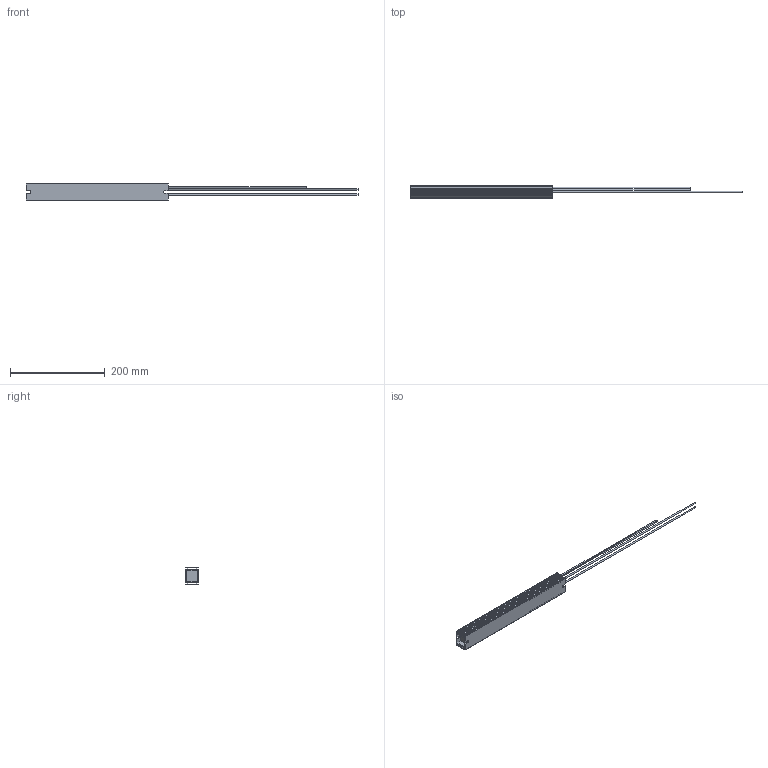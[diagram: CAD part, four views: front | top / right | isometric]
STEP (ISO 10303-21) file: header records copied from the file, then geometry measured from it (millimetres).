
FILE_DESCRIPTION(/* description */ (''),/* implementation_level */ '2;1');
FILE_NAME(/* name */ 'C:\_Vault\Dati\CATALOGO\RFZC\3D\RFZTC300.stp',/* time_stamp */ '2014-03-27T17:48:12+01:00',/* author */ ('stefano'),/* organization */ (''),/* preprocessor_version */ 'ST-DEVELOPER v15.2',/* originating_system */ 'Autodesk Inventor 2014',/* authorisation */ '');
FILE_SCHEMA (('AUTOMOTIVE_DESIGN { 1 0 10303 214 3 1 1 }'));
Length unit declared in the file: millimetre
Products named in the file (1): RFZTC300
Bounding box: 700 x 27 x 36 mm (x, y, z)
Volume: 253191.9 mm3; surface area: 76770.2 mm2
Topology: 1 solids, 1 shells, 98 faces, 268 edges, 176 vertices
Faces by surface type: plane 72, cylinder 26
Full cylindrical faces by diameter (mm): 2 x2, 3 x2
Entity records: 3215 total; most frequent: CARTESIAN_POINT 539, ORIENTED_EDGE 528, DIRECTION 522, EDGE_CURVE 264, LINE 204, VECTOR 204, VERTEX_POINT 176, AXIS2_PLACEMENT_3D 159
